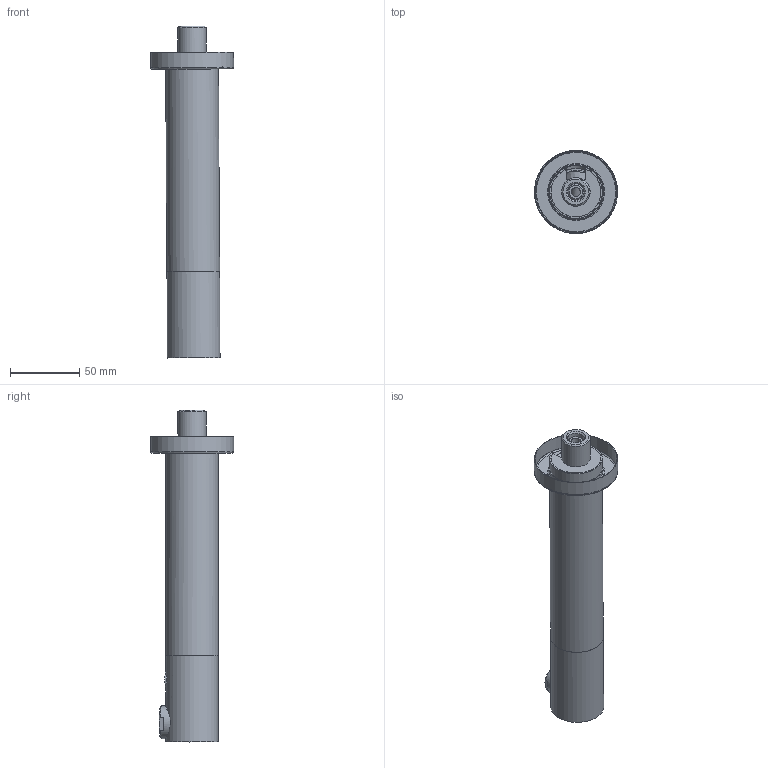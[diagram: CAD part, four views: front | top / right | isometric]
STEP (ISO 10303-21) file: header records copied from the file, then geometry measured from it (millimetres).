
FILE_DESCRIPTION(/* description */ (''),/* implementation_level */ '2;1');
FILE_NAME(/* name */ 'C:\Comun\ARCHIVOS 3D MAX\13211000.stp',/* time_stamp */ '2018-05-23T10:23:04-05:00',/* author */ ('jroman'),/* organization */ (''),/* preprocessor_version */ 'ST-DEVELOPER v17',/* originating_system */ 'Autodesk Inventor 2019',/* authorisation */ '');
FILE_SCHEMA (('AUTOMOTIVE_DESIGN { 1 0 10303 214 3 1 1 }'));
Length unit declared in the file: millimetre
Products named in the file (21): 13211000; AC04407; TB04410; BE04434; BE04433; LA07435; OJ00213; ON00202; AC04408; BE04438; BE04439; TB04412; OR07271_B; OR07501; OR07501_A; PART1_1; OR07501_B; PART1_1_1; SR4; OR07501_C; PART1_2
Assembly tree (21 placements, depth 4):
  13211000
    AC04407
      TB04410
      BE04434
      BE04433
    LA07435
    OJ00213  x2
    ON00202
    AC04408
      BE04438
      BE04439
      TB04412
    OR07271_B
    OR07501
      OR07501_A
        PART1_1
      OR07501_B
        PART1_1_1
        SR4
      OR07501_C
        PART1_2
Bounding box: 59.87 x 59.81 x 239.16 mm (x, y, z)
Volume: 103349.7 mm3; surface area: 89340 mm2
Topology: 14 solids, 14 shells, 170 faces, 420 edges, 289 vertices
Faces by surface type: plane 83, cylinder 59, cone 16, torus 11, bspline 1
Full cylindrical faces by diameter (mm): 1.5 x1, 2.5 x1, 3.5 x1, 4.5 x1, 6.5 x1, 7.1 x3, 8 x1, 9 x2, 9.5 x3, 9.7 x2, 11.7 x3, 12 x2, 13.9 x1, 14.2 x1, 15 x1, 20.1 x1, 20.5 x1, 20.8 x1, 21 x1, 21.2 x1, 22.5 x2, 23 x1, 23.75 x2, 24.5 x1, 32 x1, 34 x2, 35 x1, 35.8 x1, 36 x1, 38 x2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
Entity records: 6173 total; most frequent: CARTESIAN_POINT 1174, DIRECTION 1051, ORIENTED_EDGE 832, AXIS2_PLACEMENT_3D 453, EDGE_CURVE 416, VERTEX_POINT 288, CIRCLE 237, EDGE_LOOP 214
